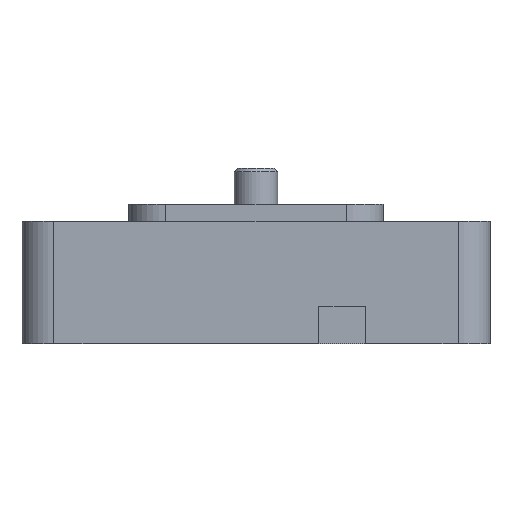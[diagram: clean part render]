
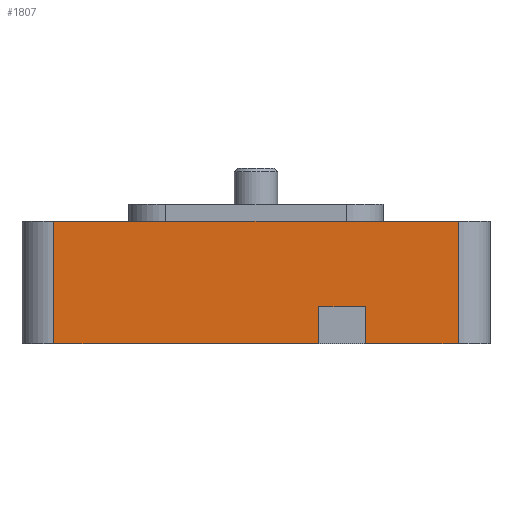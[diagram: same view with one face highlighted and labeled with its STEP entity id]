
A CAD part, front view. The second image highlights one B-rep face of the part: STEP entity #1807.
In plain terms, the highlighted planar face has unit normal (0, -1, 0).
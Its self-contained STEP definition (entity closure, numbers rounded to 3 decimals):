
#44 = PLANE('',#45);
#45 = AXIS2_PLACEMENT_3D('',#46,#47,#48);
#46 = CARTESIAN_POINT('',(-22.,-26.,-0.5));
#47 = DIRECTION('',(0.,0.,1.));
#48 = DIRECTION('',(1.,0.,0.));
#72 = CYLINDRICAL_SURFACE('',#73,3.);
#73 = AXIS2_PLACEMENT_3D('',#74,#75,#76);
#74 = CARTESIAN_POINT('',(-19.,-23.,-12.));
#75 = DIRECTION('',(0.,0.,1.));
#76 = DIRECTION('',(-1.,-0.,0.));
#100 = PLANE('',#101);
#101 = AXIS2_PLACEMENT_3D('',#102,#103,#104);
#102 = CARTESIAN_POINT('',(-22.,-26.,-12.));
#103 = DIRECTION('',(0.,0.,1.));
#104 = DIRECTION('',(1.,0.,0.));
#143 = VERTEX_POINT('',#144);
#144 = CARTESIAN_POINT('',(-19.,-26.,-0.5));
#166 = EDGE_CURVE('',#143,#167,#169,.T.);
#167 = VERTEX_POINT('',#168);
#168 = CARTESIAN_POINT('',(19.,-26.,-0.5));
#169 = SURFACE_CURVE('',#170,(#174,#181),.PCURVE_S1.);
#170 = LINE('',#171,#172);
#171 = CARTESIAN_POINT('',(-22.,-26.,-0.5));
#172 = VECTOR('',#173,1.);
#173 = DIRECTION('',(1.,0.,0.));
#174 = PCURVE('',#44,#175);
#175 = DEFINITIONAL_REPRESENTATION('',(#176),#180);
#176 = LINE('',#177,#178);
#177 = CARTESIAN_POINT('',(0.,0.));
#178 = VECTOR('',#179,1.);
#179 = DIRECTION('',(1.,0.));
#180 = ( GEOMETRIC_REPRESENTATION_CONTEXT(2) 
PARAMETRIC_REPRESENTATION_CONTEXT() REPRESENTATION_CONTEXT('2D SPACE',''
  ) );
#181 = PCURVE('',#182,#187);
#182 = PLANE('',#183);
#183 = AXIS2_PLACEMENT_3D('',#184,#185,#186);
#184 = CARTESIAN_POINT('',(-22.,-26.,-12.));
#185 = DIRECTION('',(0.,1.,0.));
#186 = DIRECTION('',(0.,0.,1.));
#187 = DEFINITIONAL_REPRESENTATION('',(#188),#192);
#188 = LINE('',#189,#190);
#189 = CARTESIAN_POINT('',(11.5,0.));
#190 = VECTOR('',#191,1.);
#191 = DIRECTION('',(0.,1.));
#192 = ( GEOMETRIC_REPRESENTATION_CONTEXT(2) 
PARAMETRIC_REPRESENTATION_CONTEXT() REPRESENTATION_CONTEXT('2D SPACE',''
  ) );
#215 = CYLINDRICAL_SURFACE('',#216,3.);
#216 = AXIS2_PLACEMENT_3D('',#217,#218,#219);
#217 = CARTESIAN_POINT('',(19.,-23.,-12.));
#218 = DIRECTION('',(0.,0.,1.));
#219 = DIRECTION('',(1.,0.,-0.));
#1018 = VERTEX_POINT('',#1019);
#1019 = CARTESIAN_POINT('',(-19.,-26.,-12.));
#1041 = EDGE_CURVE('',#1018,#143,#1042,.T.);
#1042 = SURFACE_CURVE('',#1043,(#1047,#1054),.PCURVE_S1.);
#1043 = LINE('',#1044,#1045);
#1044 = CARTESIAN_POINT('',(-19.,-26.,-12.));
#1045 = VECTOR('',#1046,1.);
#1046 = DIRECTION('',(0.,0.,1.));
#1047 = PCURVE('',#72,#1048);
#1048 = DEFINITIONAL_REPRESENTATION('',(#1049),#1053);
#1049 = LINE('',#1050,#1051);
#1050 = CARTESIAN_POINT('',(1.571,0.));
#1051 = VECTOR('',#1052,1.);
#1052 = DIRECTION('',(0.,1.));
#1053 = ( GEOMETRIC_REPRESENTATION_CONTEXT(2) 
PARAMETRIC_REPRESENTATION_CONTEXT() REPRESENTATION_CONTEXT('2D SPACE',''
  ) );
#1054 = PCURVE('',#182,#1055);
#1055 = DEFINITIONAL_REPRESENTATION('',(#1056),#1060);
#1056 = LINE('',#1057,#1058);
#1057 = CARTESIAN_POINT('',(0.,3.));
#1058 = VECTOR('',#1059,1.);
#1059 = DIRECTION('',(1.,0.));
#1060 = ( GEOMETRIC_REPRESENTATION_CONTEXT(2) 
PARAMETRIC_REPRESENTATION_CONTEXT() REPRESENTATION_CONTEXT('2D SPACE',''
  ) );
#1123 = EDGE_CURVE('',#1018,#1124,#1126,.T.);
#1124 = VERTEX_POINT('',#1125);
#1125 = CARTESIAN_POINT('',(5.9,-26.,-12.));
#1126 = SURFACE_CURVE('',#1127,(#1131,#1138),.PCURVE_S1.);
#1127 = LINE('',#1128,#1129);
#1128 = CARTESIAN_POINT('',(-22.,-26.,-12.));
#1129 = VECTOR('',#1130,1.);
#1130 = DIRECTION('',(1.,0.,0.));
#1131 = PCURVE('',#100,#1132);
#1132 = DEFINITIONAL_REPRESENTATION('',(#1133),#1137);
#1133 = LINE('',#1134,#1135);
#1134 = CARTESIAN_POINT('',(0.,0.));
#1135 = VECTOR('',#1136,1.);
#1136 = DIRECTION('',(1.,0.));
#1137 = ( GEOMETRIC_REPRESENTATION_CONTEXT(2) 
PARAMETRIC_REPRESENTATION_CONTEXT() REPRESENTATION_CONTEXT('2D SPACE',''
  ) );
#1138 = PCURVE('',#182,#1139);
#1139 = DEFINITIONAL_REPRESENTATION('',(#1140),#1144);
#1140 = LINE('',#1141,#1142);
#1141 = CARTESIAN_POINT('',(0.,0.));
#1142 = VECTOR('',#1143,1.);
#1143 = DIRECTION('',(0.,1.));
#1144 = ( GEOMETRIC_REPRESENTATION_CONTEXT(2) 
PARAMETRIC_REPRESENTATION_CONTEXT() REPRESENTATION_CONTEXT('2D SPACE',''
  ) );
#1161 = PLANE('',#1162);
#1162 = AXIS2_PLACEMENT_3D('',#1163,#1164,#1165);
#1163 = CARTESIAN_POINT('',(5.9,-28.,-12.1));
#1164 = DIRECTION('',(1.,0.,0.));
#1165 = DIRECTION('',(0.,0.,1.));
#1414 = VERTEX_POINT('',#1415);
#1415 = CARTESIAN_POINT('',(10.3,-26.,-12.));
#1428 = PLANE('',#1429);
#1429 = AXIS2_PLACEMENT_3D('',#1430,#1431,#1432);
#1430 = CARTESIAN_POINT('',(10.3,-28.,-12.1));
#1431 = DIRECTION('',(1.,0.,0.));
#1432 = DIRECTION('',(0.,0.,1.));
#1439 = EDGE_CURVE('',#1414,#1440,#1442,.T.);
#1440 = VERTEX_POINT('',#1441);
#1441 = CARTESIAN_POINT('',(19.,-26.,-12.));
#1442 = SURFACE_CURVE('',#1443,(#1447,#1454),.PCURVE_S1.);
#1443 = LINE('',#1444,#1445);
#1444 = CARTESIAN_POINT('',(-22.,-26.,-12.));
#1445 = VECTOR('',#1446,1.);
#1446 = DIRECTION('',(1.,0.,0.));
#1447 = PCURVE('',#100,#1448);
#1448 = DEFINITIONAL_REPRESENTATION('',(#1449),#1453);
#1449 = LINE('',#1450,#1451);
#1450 = CARTESIAN_POINT('',(0.,0.));
#1451 = VECTOR('',#1452,1.);
#1452 = DIRECTION('',(1.,0.));
#1453 = ( GEOMETRIC_REPRESENTATION_CONTEXT(2) 
PARAMETRIC_REPRESENTATION_CONTEXT() REPRESENTATION_CONTEXT('2D SPACE',''
  ) );
#1454 = PCURVE('',#182,#1455);
#1455 = DEFINITIONAL_REPRESENTATION('',(#1456),#1460);
#1456 = LINE('',#1457,#1458);
#1457 = CARTESIAN_POINT('',(0.,0.));
#1458 = VECTOR('',#1459,1.);
#1459 = DIRECTION('',(0.,1.));
#1460 = ( GEOMETRIC_REPRESENTATION_CONTEXT(2) 
PARAMETRIC_REPRESENTATION_CONTEXT() REPRESENTATION_CONTEXT('2D SPACE',''
  ) );
#1807 = ADVANCED_FACE('',(#1808),#182,.F.);
#1808 = FACE_BOUND('',#1809,.F.);
#1809 = EDGE_LOOP('',(#1810,#1811,#1812,#1813,#1834,#1835,#1856,#1882));
#1810 = ORIENTED_EDGE('',*,*,#1123,.F.);
#1811 = ORIENTED_EDGE('',*,*,#1041,.T.);
#1812 = ORIENTED_EDGE('',*,*,#166,.T.);
#1813 = ORIENTED_EDGE('',*,*,#1814,.F.);
#1814 = EDGE_CURVE('',#1440,#167,#1815,.T.);
#1815 = SURFACE_CURVE('',#1816,(#1820,#1827),.PCURVE_S1.);
#1816 = LINE('',#1817,#1818);
#1817 = CARTESIAN_POINT('',(19.,-26.,-12.));
#1818 = VECTOR('',#1819,1.);
#1819 = DIRECTION('',(0.,0.,1.));
#1820 = PCURVE('',#182,#1821);
#1821 = DEFINITIONAL_REPRESENTATION('',(#1822),#1826);
#1822 = LINE('',#1823,#1824);
#1823 = CARTESIAN_POINT('',(0.,41.));
#1824 = VECTOR('',#1825,1.);
#1825 = DIRECTION('',(1.,0.));
#1826 = ( GEOMETRIC_REPRESENTATION_CONTEXT(2) 
PARAMETRIC_REPRESENTATION_CONTEXT() REPRESENTATION_CONTEXT('2D SPACE',''
  ) );
#1827 = PCURVE('',#215,#1828);
#1828 = DEFINITIONAL_REPRESENTATION('',(#1829),#1833);
#1829 = LINE('',#1830,#1831);
#1830 = CARTESIAN_POINT('',(-1.571,0.));
#1831 = VECTOR('',#1832,1.);
#1832 = DIRECTION('',(-0.,1.));
#1833 = ( GEOMETRIC_REPRESENTATION_CONTEXT(2) 
PARAMETRIC_REPRESENTATION_CONTEXT() REPRESENTATION_CONTEXT('2D SPACE',''
  ) );
#1834 = ORIENTED_EDGE('',*,*,#1439,.F.);
#1835 = ORIENTED_EDGE('',*,*,#1836,.F.);
#1836 = EDGE_CURVE('',#1837,#1414,#1839,.T.);
#1837 = VERTEX_POINT('',#1838);
#1838 = CARTESIAN_POINT('',(10.3,-26.,-8.5));
#1839 = SURFACE_CURVE('',#1840,(#1844,#1850),.PCURVE_S1.);
#1840 = LINE('',#1841,#1842);
#1841 = CARTESIAN_POINT('',(10.3,-26.,-12.05));
#1842 = VECTOR('',#1843,1.);
#1843 = DIRECTION('',(0.,0.,-1.));
#1844 = PCURVE('',#182,#1845);
#1845 = DEFINITIONAL_REPRESENTATION('',(#1846),#1849);
#1846 = B_SPLINE_CURVE_WITH_KNOTS('',1,(#1847,#1848),.UNSPECIFIED.,.F.,
  .F.,(2,2),(-3.55,-0.05),.PIECEWISE_BEZIER_KNOTS.);
#1847 = CARTESIAN_POINT('',(3.5,32.3));
#1848 = CARTESIAN_POINT('',(0.,32.3));
#1849 = ( GEOMETRIC_REPRESENTATION_CONTEXT(2) 
PARAMETRIC_REPRESENTATION_CONTEXT() REPRESENTATION_CONTEXT('2D SPACE',''
  ) );
#1850 = PCURVE('',#1428,#1851);
#1851 = DEFINITIONAL_REPRESENTATION('',(#1852),#1855);
#1852 = B_SPLINE_CURVE_WITH_KNOTS('',1,(#1853,#1854),.UNSPECIFIED.,.F.,
  .F.,(2,2),(-3.55,-0.05),.PIECEWISE_BEZIER_KNOTS.);
#1853 = CARTESIAN_POINT('',(3.6,-2.));
#1854 = CARTESIAN_POINT('',(0.1,-2.));
#1855 = ( GEOMETRIC_REPRESENTATION_CONTEXT(2) 
PARAMETRIC_REPRESENTATION_CONTEXT() REPRESENTATION_CONTEXT('2D SPACE',''
  ) );
#1856 = ORIENTED_EDGE('',*,*,#1857,.F.);
#1857 = EDGE_CURVE('',#1858,#1837,#1860,.T.);
#1858 = VERTEX_POINT('',#1859);
#1859 = CARTESIAN_POINT('',(5.9,-26.,-8.5));
#1860 = SURFACE_CURVE('',#1861,(#1865,#1871),.PCURVE_S1.);
#1861 = LINE('',#1862,#1863);
#1862 = CARTESIAN_POINT('',(-8.05,-26.,-8.5));
#1863 = VECTOR('',#1864,1.);
#1864 = DIRECTION('',(1.,0.,0.));
#1865 = PCURVE('',#182,#1866);
#1866 = DEFINITIONAL_REPRESENTATION('',(#1867),#1870);
#1867 = B_SPLINE_CURVE_WITH_KNOTS('',1,(#1868,#1869),.UNSPECIFIED.,.F.,
  .F.,(2,2),(13.95,18.35),.PIECEWISE_BEZIER_KNOTS.);
#1868 = CARTESIAN_POINT('',(3.5,27.9));
#1869 = CARTESIAN_POINT('',(3.5,32.3));
#1870 = ( GEOMETRIC_REPRESENTATION_CONTEXT(2) 
PARAMETRIC_REPRESENTATION_CONTEXT() REPRESENTATION_CONTEXT('2D SPACE',''
  ) );
#1871 = PCURVE('',#1872,#1877);
#1872 = PLANE('',#1873);
#1873 = AXIS2_PLACEMENT_3D('',#1874,#1875,#1876);
#1874 = CARTESIAN_POINT('',(5.9,-28.,-8.5));
#1875 = DIRECTION('',(0.,0.,1.));
#1876 = DIRECTION('',(1.,0.,0.));
#1877 = DEFINITIONAL_REPRESENTATION('',(#1878),#1881);
#1878 = B_SPLINE_CURVE_WITH_KNOTS('',1,(#1879,#1880),.UNSPECIFIED.,.F.,
  .F.,(2,2),(13.95,18.35),.PIECEWISE_BEZIER_KNOTS.);
#1879 = CARTESIAN_POINT('',(0.,2.));
#1880 = CARTESIAN_POINT('',(4.4,2.));
#1881 = ( GEOMETRIC_REPRESENTATION_CONTEXT(2) 
PARAMETRIC_REPRESENTATION_CONTEXT() REPRESENTATION_CONTEXT('2D SPACE',''
  ) );
#1882 = ORIENTED_EDGE('',*,*,#1883,.T.);
#1883 = EDGE_CURVE('',#1858,#1124,#1884,.T.);
#1884 = SURFACE_CURVE('',#1885,(#1889,#1895),.PCURVE_S1.);
#1885 = LINE('',#1886,#1887);
#1886 = CARTESIAN_POINT('',(5.9,-26.,-12.05));
#1887 = VECTOR('',#1888,1.);
#1888 = DIRECTION('',(0.,0.,-1.));
#1889 = PCURVE('',#182,#1890);
#1890 = DEFINITIONAL_REPRESENTATION('',(#1891),#1894);
#1891 = B_SPLINE_CURVE_WITH_KNOTS('',1,(#1892,#1893),.UNSPECIFIED.,.F.,
  .F.,(2,2),(-3.55,-0.05),.PIECEWISE_BEZIER_KNOTS.);
#1892 = CARTESIAN_POINT('',(3.5,27.9));
#1893 = CARTESIAN_POINT('',(0.,27.9));
#1894 = ( GEOMETRIC_REPRESENTATION_CONTEXT(2) 
PARAMETRIC_REPRESENTATION_CONTEXT() REPRESENTATION_CONTEXT('2D SPACE',''
  ) );
#1895 = PCURVE('',#1161,#1896);
#1896 = DEFINITIONAL_REPRESENTATION('',(#1897),#1900);
#1897 = B_SPLINE_CURVE_WITH_KNOTS('',1,(#1898,#1899),.UNSPECIFIED.,.F.,
  .F.,(2,2),(-3.55,-0.05),.PIECEWISE_BEZIER_KNOTS.);
#1898 = CARTESIAN_POINT('',(3.6,-2.));
#1899 = CARTESIAN_POINT('',(0.1,-2.));
#1900 = ( GEOMETRIC_REPRESENTATION_CONTEXT(2) 
PARAMETRIC_REPRESENTATION_CONTEXT() REPRESENTATION_CONTEXT('2D SPACE',''
  ) );
